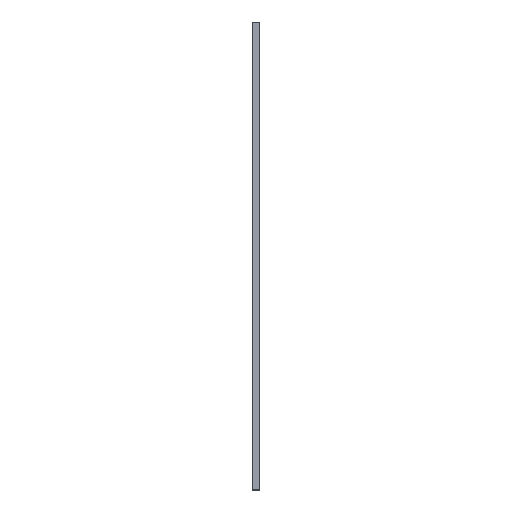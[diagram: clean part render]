
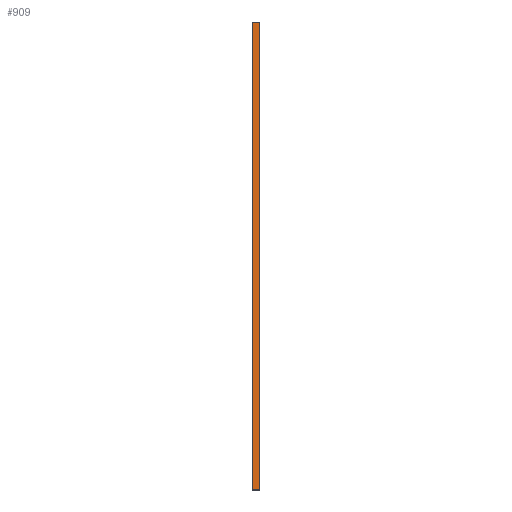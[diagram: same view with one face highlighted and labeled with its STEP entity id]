
A CAD part, left-side view. The second image highlights one B-rep face of the part: STEP entity #909.
In plain terms, the highlighted planar face has unit normal (-1, 0, 0).
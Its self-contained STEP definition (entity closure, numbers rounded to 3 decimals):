
#3 = CARTESIAN_POINT ( 'NONE',  ( -801.5, -20., -1150. ) ) ;
#184 = VECTOR ( 'NONE', #213, 1000. ) ;
#197 = ORIENTED_EDGE ( 'NONE', *, *, #242, .F. ) ;
#213 = DIRECTION ( 'NONE',  ( 0., 0., 1. ) ) ;
#216 = VERTEX_POINT ( 'NONE', #245 ) ;
#242 = EDGE_CURVE ( 'NONE', #878, #862, #682, .T. ) ;
#245 = CARTESIAN_POINT ( 'NONE',  ( -801.5, -20., 50. ) ) ;
#285 = CARTESIAN_POINT ( 'NONE',  ( -801.5, -20., -1150. ) ) ;
#303 = LINE ( 'NONE', #651, #184 ) ;
#310 = LINE ( 'NONE', #758, #945 ) ;
#377 = AXIS2_PLACEMENT_3D ( 'NONE', #285, #628, #978 ) ;
#380 = ORIENTED_EDGE ( 'NONE', *, *, #864, .T. ) ;
#382 = CARTESIAN_POINT ( 'NONE',  ( -801.5, 0., -1150. ) ) ;
#463 = FACE_OUTER_BOUND ( 'NONE', #466, .T. ) ;
#466 = EDGE_LOOP ( 'NONE', ( #197, #966, #582, #380 ) ) ;
#495 = CARTESIAN_POINT ( 'NONE',  ( -801.5, 0., -1150. ) ) ;
#537 = PLANE ( 'NONE',  #377 ) ;
#582 = ORIENTED_EDGE ( 'NONE', *, *, #1002, .T. ) ;
#611 = EDGE_CURVE ( 'NONE', #1077, #878, #310, .T. ) ;
#628 = DIRECTION ( 'NONE',  ( -1., 0., 0. ) ) ;
#651 = CARTESIAN_POINT ( 'NONE',  ( -801.5, -20., -1150. ) ) ;
#666 = DIRECTION ( 'NONE',  ( 0., 1., 0. ) ) ;
#682 = LINE ( 'NONE', #495, #985 ) ;
#683 = VECTOR ( 'NONE', #666, 1000. ) ;
#758 = CARTESIAN_POINT ( 'NONE',  ( -801.5, -20., -1150. ) ) ;
#862 = VERTEX_POINT ( 'NONE', #1098 ) ;
#864 = EDGE_CURVE ( 'NONE', #216, #862, #1069, .T. ) ;
#878 = VERTEX_POINT ( 'NONE', #382 ) ;
#901 = CARTESIAN_POINT ( 'NONE',  ( -801.5, -20., 50. ) ) ;
#904 = DIRECTION ( 'NONE',  ( 0., 1., 0. ) ) ;
#909 = ADVANCED_FACE ( 'NONE', ( #463 ), #537, .T. ) ;
#925 = DIRECTION ( 'NONE',  ( 0., 0., 1. ) ) ;
#945 = VECTOR ( 'NONE', #904, 1000. ) ;
#966 = ORIENTED_EDGE ( 'NONE', *, *, #611, .F. ) ;
#978 = DIRECTION ( 'NONE',  ( 0., 0., 1. ) ) ;
#985 = VECTOR ( 'NONE', #925, 1000. ) ;
#1002 = EDGE_CURVE ( 'NONE', #1077, #216, #303, .T. ) ;
#1069 = LINE ( 'NONE', #901, #683 ) ;
#1077 = VERTEX_POINT ( 'NONE', #3 ) ;
#1098 = CARTESIAN_POINT ( 'NONE',  ( -801.5, 0., 50. ) ) ;
